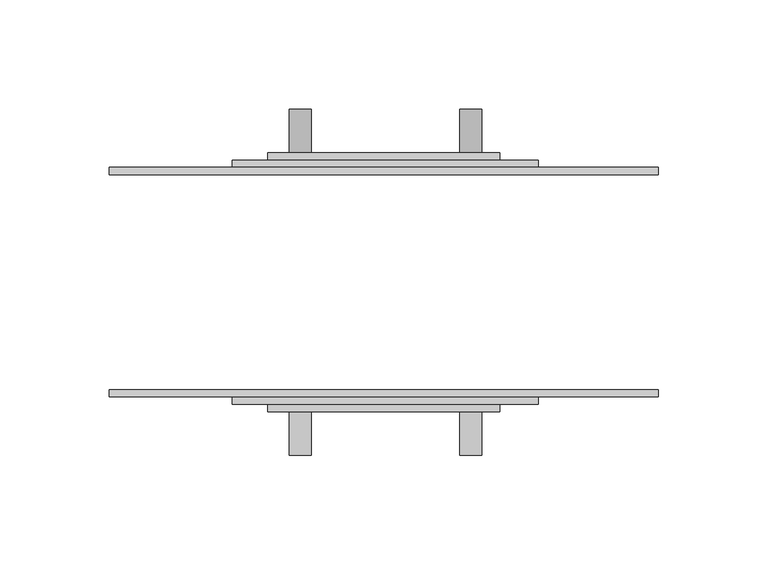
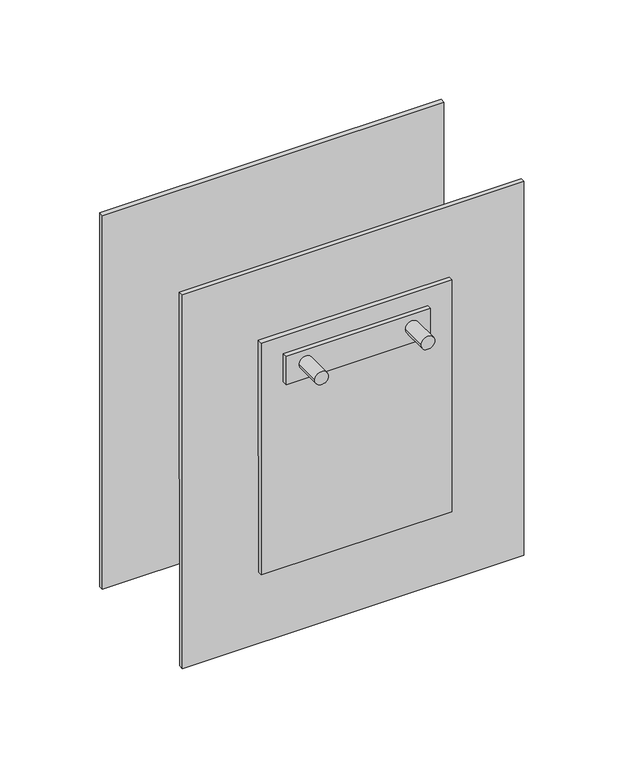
"""IFC4 building model written with IfcOpenShell, lengths in millimetres: proxy geometry, Distribution_Socket_Single_rotated : Distribution_Socket_Single_rotated."""

import ifcopenshell
import ifcopenshell.guid

model = None  # the IFC model being written
_history = None  # IfcOwnerHistory: only IFC2X3 demands one
_inside = {}  # id of a spatial element -> (the spatial element, [elements in it])
_under = {}  # id of a project, library or spatial element -> (it, [spatial elements below it])
_declared = {}  # id of a project -> (the project, [libraries it declares])
_typed = {}  # id of a type object -> (the type object, [elements of that type])
_made_of = {}  # id of a material, layer set ... -> (it, [elements and type objects made of it])


def new_model(schema):
    """Start an empty IFC model of exactly this schema.

    Asked for "IFC4X3", IfcOpenShell would pick the latest addendum, in which some entities
    have other attributes; the version numbers below select the first issue.
    IFC2X3 requires an IfcOwnerHistory on every rooted entity: one is made here for all.
    """
    global model, _history
    if schema == "IFC4X3":
        model = ifcopenshell.file(schema_version=(4, 3, 0, 0))
    else:
        model = ifcopenshell.file(schema=schema)
    _inside.clear()
    _under.clear()
    _declared.clear()
    _typed.clear()
    _made_of.clear()
    _history = None
    if model.schema == "IFC2X3":
        org = make("IfcOrganization", Name="unknown")
        user = make(
            "IfcPersonAndOrganization",
            ThePerson=make("IfcPerson", FamilyName="unknown"),
            TheOrganization=org,
        )
        app = make(
            "IfcApplication",
            ApplicationDeveloper=org,
            Version="unknown",
            ApplicationFullName="unknown",
            ApplicationIdentifier="unknown",
        )
        _history = make(
            "IfcOwnerHistory",
            OwningUser=user,
            OwningApplication=app,
            ChangeAction="ADDED",
            CreationDate=0,
        )
    return model


def make(cls, **values):
    """One entity of the class cls with the attributes given. An attribute that is None is left unset."""
    return model.create_entity(
        cls, **{name: value for name, value in values.items() if value is not None}
    )


def rooted(cls, **values):
    """An entity with a GlobalId (a new one), such as an element, a storey or a relation."""
    return make(cls, GlobalId=ifcopenshell.guid.new(), OwnerHistory=_history, **values)


def si_unit(unit_type, name, prefix=None):
    """IfcSIUnit, for example si_unit("LENGTHUNIT", "METRE", prefix="MILLI")."""
    return make("IfcSIUnit", UnitType=unit_type, Prefix=prefix, Name=name)


def assignment(units):
    """IfcUnitAssignment: the units of a project."""
    return None if units is None else make("IfcUnitAssignment", Units=units)


def point(xyz):
    """IfcCartesianPoint."""
    return None if xyz is None else make("IfcCartesianPoint", Coordinates=xyz)


def direction(xyz):
    """IfcDirection."""
    return None if xyz is None else make("IfcDirection", DirectionRatios=xyz)


def frame(location, z_axis=None, x_axis=None):
    """IfcAxis2Placement3D, a coordinate frame: its origin and axes. An axis left out is left unset."""
    return make(
        "IfcAxis2Placement3D",
        Location=point(location),
        Axis=direction(z_axis),
        RefDirection=direction(x_axis),
    )


def frame_2d(location, x_axis=None):
    """IfcAxis2Placement2D, a coordinate frame in the plane: its origin and x axis."""
    return make(
        "IfcAxis2Placement2D", Location=point(location), RefDirection=direction(x_axis)
    )


def origin():
    """The frame at (0, 0, 0) with its axes left unset."""
    return frame((0.0, 0.0, 0.0))


def place(relative_to, where):
    """IfcLocalPlacement: puts the frame where relative to a parent placement (None: the world)."""
    return make(
        "IfcLocalPlacement", PlacementRelTo=relative_to, RelativePlacement=where
    )


def context(
    kind, dimensions, precision=None, world=None, true_north=None, identifier=None
):
    """IfcGeometricRepresentationContext, for example the 3D "Model" context."""
    return make(
        "IfcGeometricRepresentationContext",
        ContextIdentifier=identifier,
        ContextType=kind,
        CoordinateSpaceDimension=dimensions,
        Precision=precision,
        WorldCoordinateSystem=world,
        TrueNorth=true_north,
    )


def project(units=None, contexts=None):
    """IfcProject with its units and contexts."""
    return rooted(
        "IfcProject",
        Name="project",
        RepresentationContexts=contexts,
        UnitsInContext=assignment(units),
    )


def spatial(cls, under=None, at=None, **own):
    """A site, building, storey or space (cls), placed at a placement, below another one or the project."""
    s = rooted(cls, ObjectPlacement=at, **own)
    if under is not None:
        _under.setdefault(under.id(), (under, []))[1].append(s)
    return s


def polyline(points):
    """IfcPolyline through the points."""
    return make("IfcPolyline", Points=[point(p) for p in points])


def circle_curve(where, radius):
    """IfcCircle in the frame where."""
    return make("IfcCircle", Position=where, Radius=radius)


def trimmed(basis, trim1, trim2, sense, master):
    """IfcTrimmedCurve: the piece of a basis curve between two trims."""
    return make(
        "IfcTrimmedCurve",
        BasisCurve=basis,
        Trim1=trim1,
        Trim2=trim2,
        SenseAgreement=sense,
        MasterRepresentation=master,
    )


def segment(curve, same_sense, transition):
    """IfcCompositeCurveSegment."""
    return make(
        "IfcCompositeCurveSegment",
        Transition=transition,
        SameSense=same_sense,
        ParentCurve=curve,
    )


def composite_curve(segments, self_intersect=None):
    """IfcCompositeCurve: segments joined end to end."""
    return make("IfcCompositeCurve", Segments=segments, SelfIntersect=self_intersect)


def outline(outer, holes=None, kind="AREA"):
    """IfcArbitraryClosedProfileDef: a profile drawn as a closed curve; with holes, ...WithVoids."""
    if holes is None:
        return make("IfcArbitraryClosedProfileDef", ProfileType=kind, OuterCurve=outer)
    return make(
        "IfcArbitraryProfileDefWithVoids",
        ProfileType=kind,
        OuterCurve=outer,
        InnerCurves=holes,
    )


def extrude(swept, where, along, depth):
    """IfcExtrudedAreaSolid: the profile swept, set in the frame where, extruded along a direction by depth."""
    return make(
        "IfcExtrudedAreaSolid",
        SweptArea=swept,
        Position=where,
        ExtrudedDirection=direction(along),
        Depth=depth,
    )


def shape(context_of_items, identifier, shape_type, items):
    """IfcShapeRepresentation: the items that make up one representation, for example the "Body"."""
    return make(
        "IfcShapeRepresentation",
        ContextOfItems=context_of_items,
        RepresentationIdentifier=identifier,
        RepresentationType=shape_type,
        Items=items,
    )


def source(mapping_origin, context_of_items, identifier, shape_type, items):
    """IfcRepresentationMap: a shape defined once, which mapped items show again and again."""
    return make(
        "IfcRepresentationMap",
        MappingOrigin=mapping_origin,
        MappedRepresentation=shape(context_of_items, identifier, shape_type, items),
    )


def transform(
    local_origin,
    x_axis=None,
    y_axis=None,
    z_axis=None,
    scale=None,
    scale2=None,
    scale3=None,
    uniform=True,
):
    """IfcCartesianTransformationOperator3D, or its non-uniform kind. x_axis, y_axis, z_axis: its Axis1, 2, 3."""
    if uniform:
        return make(
            "IfcCartesianTransformationOperator3D",
            Axis1=direction(x_axis),
            Axis2=direction(y_axis),
            LocalOrigin=point(local_origin),
            Scale=scale,
            Axis3=direction(z_axis),
        )
    return make(
        "IfcCartesianTransformationOperator3DnonUniform",
        Axis1=direction(x_axis),
        Axis2=direction(y_axis),
        LocalOrigin=point(local_origin),
        Scale=scale,
        Axis3=direction(z_axis),
        Scale2=scale2,
        Scale3=scale3,
    )


def mapped(mapping_source, mapping_target):
    """IfcMappedItem: shows the shape of a source again, moved by a transform."""
    return make(
        "IfcMappedItem", MappingSource=mapping_source, MappingTarget=mapping_target
    )


def made_of(thing, what):
    """Note that an element or type object is made of a material, layer set ...; save() writes the relation."""
    if what is not None:
        _made_of.setdefault(what.id(), (what, []))[1].append(thing)
    return thing


def element(
    cls,
    number,
    at=None,
    inside=None,
    cuts=None,
    type_object=None,
    material=None,
    context=None,
    identifier="Body",
    shape_type=None,
    held_by="IfcProductDefinitionShape",
    body=None,
    shapes=None,
    **own,
):
    """One element of the class cls, such as IfcWall. Its Tag is "e" and its number.

    at: its placement. inside: the storey or other place that contains it. cuts: it is an
    opening in that element (IfcRelVoidsElement). A single representation is given by context,
    identifier, shape_type and body (its items); several are given by shapes. held_by: the class
    of the entity that holds the representations. save() writes the other relations.
    """
    e = rooted(cls, Tag="e%d" % number, ObjectPlacement=at, **own)
    if body is not None:
        shapes = [shape(context, identifier, shape_type, body)]
    if shapes is not None:
        e.Representation = make(held_by, Representations=shapes)
    if inside is not None:
        _inside.setdefault(inside.id(), (inside, []))[1].append(e)
    if cuts is not None:
        rooted(
            "IfcRelVoidsElement", RelatingBuildingElement=cuts, RelatedOpeningElement=e
        )
    if type_object is not None:
        _typed.setdefault(type_object.id(), (type_object, []))[1].append(e)
    return made_of(e, material)


def aggregate(whole, parts):
    """IfcRelAggregates: a whole, such as a stair, and the parts it consists of."""
    return rooted("IfcRelAggregates", RelatingObject=whole, RelatedObjects=parts)


def save(model, path):
    """Write the relations noted so far, then the file.

    IfcRelAggregates (storeys below a building ...), IfcRelContainedInSpatialStructure (elements
    in a storey), IfcRelDefinesByType, IfcRelAssociatesMaterial and IfcRelDeclares: one each for
    every whole, place, type object, material and project.
    """
    for whole, parts in _under.values():
        aggregate(whole, parts)
    for where, things in _inside.values():
        rooted(
            "IfcRelContainedInSpatialStructure",
            RelatedElements=things,
            RelatingStructure=where,
        )
    for kind, things in _typed.values():
        rooted("IfcRelDefinesByType", RelatedObjects=things, RelatingType=kind)
    for what, things in _made_of.values():
        rooted("IfcRelAssociatesMaterial", RelatedObjects=things, RelatingMaterial=what)
    for by, libraries in _declared.values():
        rooted("IfcRelDeclares", RelatingContext=by, RelatedDefinitions=libraries)
    model.write(path)


def electrical_equipment_35aad652(model_context):
    return source(origin(), model_context, "Body", "SweptSolid", [
        extrude(outline(composite_curve([segment(trimmed(circle_curve(frame_2d((65.9108106, -38.3495044)), 5.0), [point((65.9071337, -43.349503))], [point((65.9144874, -33.3495057))], False, "CARTESIAN"), True, "CONTINUOUS"), segment(trimmed(circle_curve(frame_2d((65.9108106, -38.3495044)), 5.0), [point((65.9144874, -33.3495057))], [point((65.9071337, -43.349503))], False, "CARTESIAN"), True, "CONTINUOUS")], self_intersect=False)), frame((0.0, -78.9615857, 0.0), z_axis=(0.0, 1.0, 0.0), x_axis=(0.0, 0.0, 1.0)), (0.0, 0.0, 1.0), 20.9),
        extrude(outline(composite_curve([segment(trimmed(circle_curve(frame_2d((65.9681666, 39.6461612)), 5.0), [point((65.9644897, 34.6461626))], [point((65.9718434, 44.6461599))], False, "CARTESIAN"), True, "CONTINUOUS"), segment(trimmed(circle_curve(frame_2d((65.9681666, 39.6461612)), 5.0), [point((65.9718434, 44.6461599))], [point((65.9644897, 34.6461626))], False, "CARTESIAN"), True, "CONTINUOUS")], self_intersect=False)), frame((0.0, -78.9615857, 0.0), z_axis=(0.0, 1.0, 0.0), x_axis=(0.0, 0.0, 1.0)), (0.0, 0.0, 1.0), 20.9),
        extrude(outline(composite_curve([segment(trimmed(circle_curve(frame_2d((65.9108106, -38.3495044)), 5.0), [point((65.9071337, -43.349503))], [point((65.9144874, -33.3495057))], False, "CARTESIAN"), True, "CONTINUOUS"), segment(trimmed(circle_curve(frame_2d((65.9108106, -38.3495044)), 5.0), [point((65.9144874, -33.3495057))], [point((65.9071337, -43.349503))], False, "CARTESIAN"), True, "CONTINUOUS")], self_intersect=False)), frame((0.0, 58.0615857, 0.0), z_axis=(0.0, 1.0, 0.0), x_axis=(0.0, 0.0, 1.0)), (0.0, 0.0, 1.0), 20.9),
        extrude(outline(composite_curve([segment(trimmed(circle_curve(frame_2d((65.9681666, 39.6461612)), 5.0), [point((65.9644897, 34.6461626))], [point((65.9718434, 44.6461599))], False, "CARTESIAN"), True, "CONTINUOUS"), segment(trimmed(circle_curve(frame_2d((65.9681666, 39.6461612)), 5.0), [point((65.9718434, 44.6461599))], [point((65.9644897, 34.6461626))], False, "CARTESIAN"), True, "CONTINUOUS")], self_intersect=False)), frame((0.0, 58.0615857, 0.0), z_axis=(0.0, 1.0, 0.0), x_axis=(0.0, 0.0, 1.0)), (0.0, 0.0, 1.0), 20.9),
        extrude(outline(polyline([(106.0000706, 0.0), (0.0, 0.0), (0.0, 3.3705022), (106.0000706, 3.3705022), (106.0000706, 0.0)])), frame((-53.0397311, -59.1730857, 53.9610106), z_axis=(-0.0007353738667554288, 0.0, 0.9999997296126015), x_axis=(0.9999997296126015, 0.0, 0.0007353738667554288)), (0.0, 0.0, 1.0), 22.0),
        extrude(outline(polyline([(106.0000706, 118.3461714), (106.0000706, 114.9756692), (0.0, 114.9756692), (0.0, 118.3461714), (106.0000706, 118.3461714)])), frame((-53.0397311, -59.1730857, 53.9610106), z_axis=(-0.0007353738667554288, 0.0, 0.9999997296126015), x_axis=(0.9999997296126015, 0.0, 0.0007353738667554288)), (0.0, 0.0, 1.0), 22.0),
        extrude(outline(polyline([(3.3704978, 0.0), (0.0, 0.0), (0.0, 140.0000302), (3.3704978, 140.0000302), (3.3704978, 0.0)])), frame((-69.3139377, -52.4320857, -90.050996), z_axis=(-0.0007353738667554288, 0.0, 0.9999997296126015), x_axis=(0.0, -1.0, 0.0)), (0.0, 0.0, 1.0), 180.0),
        extrude(outline(polyline([(-108.2346692, 0.0), (-108.2346692, 140.0000302), (-104.8641718, 140.0000302), (-104.8641718, 0.0), (-108.2346692, 0.0)])), frame((-69.3139377, -52.4320857, -90.050996), z_axis=(-0.0007353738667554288, 0.0, 0.9999997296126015), x_axis=(0.0, -1.0, 0.0)), (0.0, 0.0, 1.0), 180.0),
        extrude(outline(polyline([(250.7451946, 0.0), (0.0, 0.0), (0.0, 3.3705), (250.7451946, 3.3705), (250.7451946, 0.0)])), frame((-125.2659342, -52.4320857, -145.0921565), z_axis=(-0.0007353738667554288, 0.0, 0.9999997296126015), x_axis=(0.9999997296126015, 0.0, 0.0007353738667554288)), (0.0, 0.0, 1.0), 290.0),
        extrude(outline(polyline([(0.0, 104.8641718), (250.7451946, 104.8641718), (250.7451946, 101.4936714), (0.0, 101.4936714), (0.0, 104.8641718)])), frame((-125.2659342, -52.4320857, -145.0921565), z_axis=(-0.0007353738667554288, 0.0, 0.9999997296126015), x_axis=(0.9999997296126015, 0.0, 0.0007353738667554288)), (0.0, 0.0, 1.0), 290.0),
    ])


if __name__ == "__main__":
    model = new_model("IFC4")
    model_context = context("Model", 3, world=origin())
    ifc_project = project(units=[si_unit("LENGTHUNIT", "METRE", prefix="MILLI")], contexts=[model_context])
    site = spatial("IfcSite", under=ifc_project)
    building = spatial("IfcBuilding", under=site)
    placement = place(None, origin())
    electrical_equipment_shape = electrical_equipment_35aad652(model_context)
    element("IfcBuildingElementProxy", 1, Name="Distribution_Socket_Single_rotated : Distribution_Socket_Single_rotated", ObjectType="Distribution_Socket_Single_rotated : Distribution_Socket_Single_rotated", at=placement, inside=building, context=model_context, shape_type="MappedRepresentation", body=[
        mapped(electrical_equipment_shape, transform((0.0, 0.0, 0.0), x_axis=(1.0, 0.0, 0.0), y_axis=(0.0, 1.0, 0.0), z_axis=(0.0, 0.0, 1.0))),
    ])
    save(model, "model.ifc")
